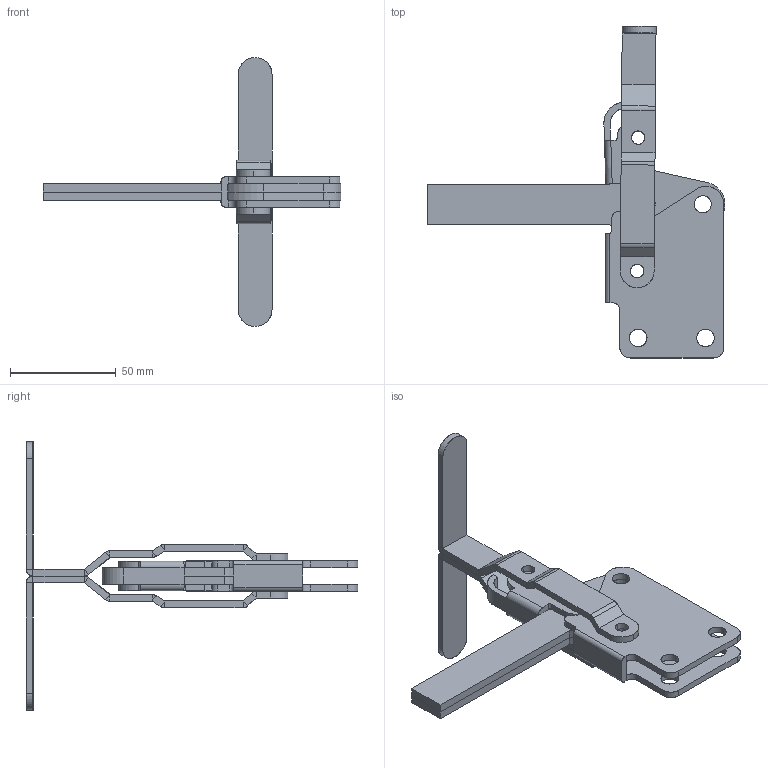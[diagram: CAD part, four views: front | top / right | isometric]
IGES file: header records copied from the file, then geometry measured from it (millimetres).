
Start section: SolidWorks IGES file using analytic representation for surfaces
Global section: file name: D:\GH Files\GH-SW-FILES\GH1\GH-12270\12300\GH-12300.IGS; native system: SolidWorks 2006 by SolidWorks Corporation; preprocessor: SolidWorks 2006 by SolidWorks Corporation; author: Administrator; date: 060825.155257; units: millimetre
Bounding box: 140.8 x 156.76 x 127 mm (x, y, z)
Surface area: 50985.5 mm2 (no closed solid volume)
Topology: 0 solids, 0 shells, 260 faces, 3366 edges, 3366 vertices
Faces by surface type: bspline 142, revolution 118
